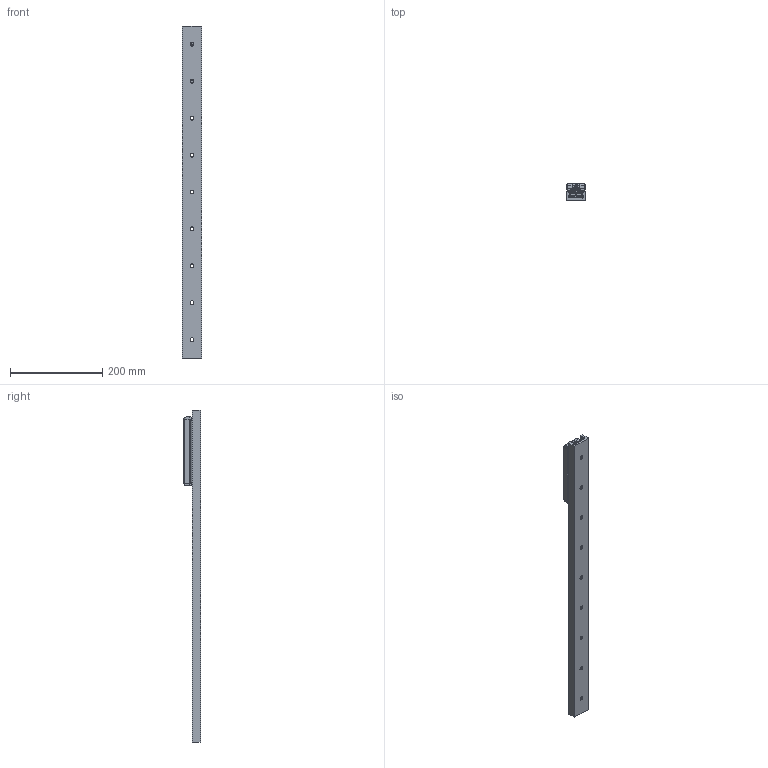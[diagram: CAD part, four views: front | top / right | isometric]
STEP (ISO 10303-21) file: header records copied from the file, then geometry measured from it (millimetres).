
FILE_DESCRIPTION( ( 'STEP AP214' ), '1' );
FILE_NAME( 'p:/temp/worker_50/temp/exporttempdir_5704_248_hjj8x/format_1/TGV-00720_1_RV43G-3.stp', '2021-06-09T17:48:39', ( 'License CC BY-ND 4.0' ), ( 'CADENAS' ), ' ', 'PARTsolutions', ' ' );
FILE_SCHEMA( ( 'AUTOMOTIVE_DESIGN { 1 0 10303 214 1 1 1 1 }' ) );
Length unit declared in the file: millimetre
Products named in the file (6): TGV-00720/1/RV43G-3; _TGV43-0720-(3-1); _RVG43-3-slider; _RGNV43R; _RGAV43R; _WR43G-01
Assembly tree (7 placements, depth 2):
  TGV-00720/1/RV43G-3
    _TGV43-0720-(3-1)
    _RVG43-3-slider
    _RGNV43R  x2
    _RGAV43R
    _WR43G-01  x2
Bounding box: 43 x 37 x 720 mm (x, y, z)
Volume: 384593 mm3; surface area: 153456.8 mm2
Topology: 7 solids, 7 shells, 1059 faces, 2769 edges, 1806 vertices
Faces by surface type: plane 663, cylinder 305, cone 48, bspline 34, torus 9
Full cylindrical faces by diameter (mm): 1.76 x4, 3 x8, 6 x4, 6.647 x4, 6.8 x3, 8 x3, 8.5 x9, 11 x11, 15 x6, 15.5 x1, 18.98 x2, 19 x1, 31.4 x6
Entity records: 25123 total; most frequent: CARTESIAN_POINT 3998, DIRECTION 3357, ORIENTED_EDGE 3118, EDGE_CURVE 1559, AXIS2_PLACEMENT_3D 1275, VERTEX_POINT 1078, EDGE_LOOP 851, LINE 807
